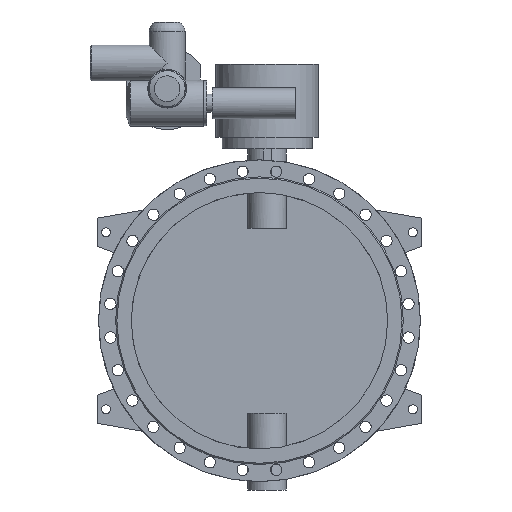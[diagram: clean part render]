
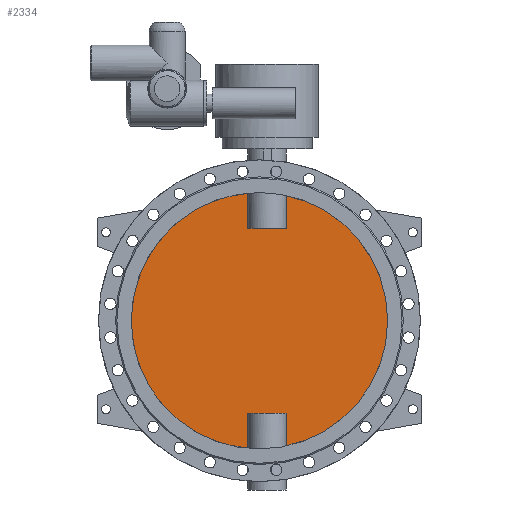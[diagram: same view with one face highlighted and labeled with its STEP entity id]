
A CAD part, front view. The second image highlights one B-rep face of the part: STEP entity #2334.
In plain terms, the highlighted planar face has unit normal (0, -1, 0).
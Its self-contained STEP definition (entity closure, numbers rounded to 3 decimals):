
#2334=ADVANCED_FACE('',(#4725),#4727,.F.);
#4725=FACE_BOUND('',#4726,.T.);
#4726=EDGE_LOOP('',(#5783,#5784,#5785,#5786,#5787,#5788,#5789,#5790));
#4727=PLANE('',#4728);
#4728=AXIS2_PLACEMENT_3D('',#4729,#4730,#4731);
#4729=CARTESIAN_POINT('',(0.,-5.,0.));
#4730=DIRECTION('',(0.,1.,0.));
#4731=DIRECTION('',(1.,0.,0.));
#5783=ORIENTED_EDGE('',*,*,#6313,.T.);
#5784=ORIENTED_EDGE('',*,*,#6318,.T.);
#5785=ORIENTED_EDGE('',*,*,#6319,.T.);
#5786=ORIENTED_EDGE('',*,*,#6320,.T.);
#5787=ORIENTED_EDGE('',*,*,#6315,.T.);
#5788=ORIENTED_EDGE('',*,*,#6321,.T.);
#5789=ORIENTED_EDGE('',*,*,#6322,.T.);
#5790=ORIENTED_EDGE('',*,*,#6323,.T.);
#6313=EDGE_CURVE('',#7247,#7248,#7249,.F.);
#6315=EDGE_CURVE('',#7252,#7250,#7253,.F.);
#6318=EDGE_CURVE('',#7248,#7257,#7258,.T.);
#6319=EDGE_CURVE('',#7257,#7259,#7260,.F.);
#6320=EDGE_CURVE('',#7259,#7252,#7261,.F.);
#6321=EDGE_CURVE('',#7250,#7262,#7263,.F.);
#6322=EDGE_CURVE('',#7262,#7264,#7265,.F.);
#6323=EDGE_CURVE('',#7264,#7247,#7266,.T.);
#7247=VERTEX_POINT('',#11219);
#7248=VERTEX_POINT('',#11220);
#7249=CIRCLE('',#11221,500.);
#7250=VERTEX_POINT('',#11225);
#7252=VERTEX_POINT('',#11323);
#7253=CIRCLE('',#11324,500.);
#7257=VERTEX_POINT('',#11429);
#7258=LINE('',#11430,#11431);
#7259=VERTEX_POINT('',#11433);
#7260=LINE('',#11434,#11435);
#7261=LINE('',#11437,#11438);
#7262=VERTEX_POINT('',#11440);
#7263=LINE('',#11441,#11442);
#7264=VERTEX_POINT('',#11444);
#7265=LINE('',#11445,#11446);
#7266=LINE('',#11448,#11449);
#11219=CARTESIAN_POINT('',(104.833,-5.,-488.887));
#11220=CARTESIAN_POINT('',(104.833,-5.,488.887));
#11221=AXIS2_PLACEMENT_3D('',#11222,#11223,#11224);
#11222=CARTESIAN_POINT('',(0.,-5.,0.));
#11223=DIRECTION('',(0.,1.,0.));
#11224=DIRECTION('',(0.21,0.,0.978));
#11225=CARTESIAN_POINT('',(-44.833,-5.,-497.986));
#11323=CARTESIAN_POINT('',(-44.833,-5.,497.986));
#11324=AXIS2_PLACEMENT_3D('',#11325,#11326,#11327);
#11325=CARTESIAN_POINT('',(0.,-5.,0.));
#11326=DIRECTION('',(0.,1.,0.));
#11327=DIRECTION('',(-0.09,0.,-0.996));
#11429=CARTESIAN_POINT('',(104.833,-5.,360.));
#11430=CARTESIAN_POINT('',(104.833,-5.,488.887));
#11431=VECTOR('',#11432,1.);
#11432=DIRECTION('',(0.,0.,-1.));
#11433=CARTESIAN_POINT('',(-44.833,-5.,360.));
#11434=CARTESIAN_POINT('',(-44.833,-5.,360.));
#11435=VECTOR('',#11436,1.);
#11436=DIRECTION('',(1.,0.,0.));
#11437=CARTESIAN_POINT('',(-44.833,-5.,497.986));
#11438=VECTOR('',#11439,1.);
#11439=DIRECTION('',(0.,0.,-1.));
#11440=CARTESIAN_POINT('',(-44.833,-5.,-360.));
#11441=CARTESIAN_POINT('',(-44.833,-5.,-360.));
#11442=VECTOR('',#11443,1.);
#11443=DIRECTION('',(0.,0.,-1.));
#11444=CARTESIAN_POINT('',(104.833,-5.,-360.));
#11445=CARTESIAN_POINT('',(104.833,-5.,-360.));
#11446=VECTOR('',#11447,1.);
#11447=DIRECTION('',(-1.,0.,0.));
#11448=CARTESIAN_POINT('',(104.833,-5.,-360.));
#11449=VECTOR('',#11450,1.);
#11450=DIRECTION('',(0.,0.,-1.));
